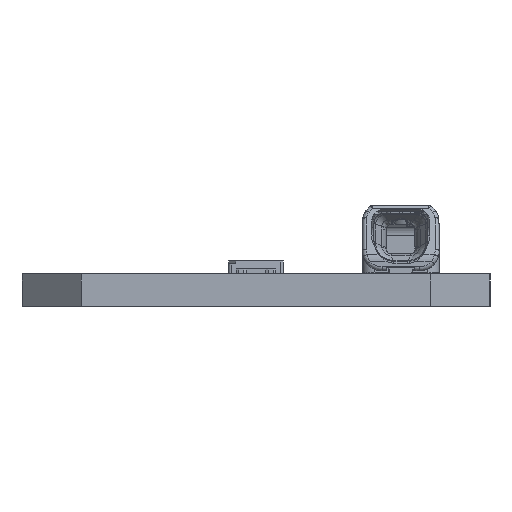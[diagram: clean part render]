
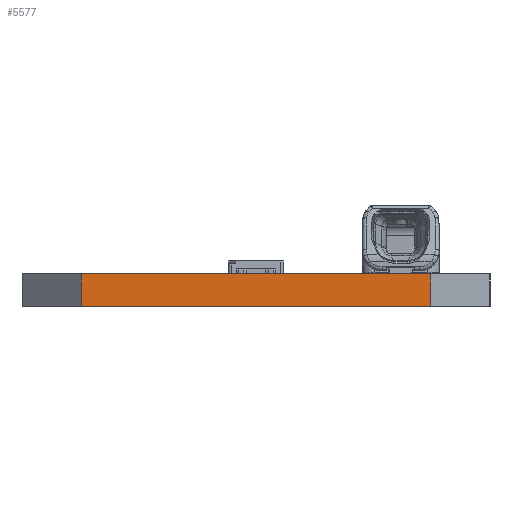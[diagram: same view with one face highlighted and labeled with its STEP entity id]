
A CAD part, left-side view. The second image highlights one B-rep face of the part: STEP entity #5577.
In plain terms, the highlighted planar face has unit normal (-1, 0, 0).
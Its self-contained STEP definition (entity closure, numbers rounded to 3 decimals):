
#877=DIRECTION('',(0.,1.,0.));
#878=VECTOR('',#877,17.6);
#879=CARTESIAN_POINT('',(-34.5,-8.8,0.));
#880=LINE('',#879,#878);
#959=DIRECTION('',(0.,0.,1.));
#960=VECTOR('',#959,1.65);
#961=CARTESIAN_POINT('',(-34.5,8.8,0.));
#962=LINE('',#961,#960);
#963=DIRECTION('',(0.,0.,1.));
#964=VECTOR('',#963,1.65);
#965=CARTESIAN_POINT('',(-34.5,-8.8,0.));
#966=LINE('',#965,#964);
#967=DIRECTION('',(0.,1.,0.));
#968=VECTOR('',#967,17.6);
#969=CARTESIAN_POINT('',(-34.5,-8.8,1.65));
#970=LINE('',#969,#968);
#3940=CARTESIAN_POINT('',(-34.5,-8.8,0.));
#3941=CARTESIAN_POINT('',(-34.5,8.8,0.));
#3942=VERTEX_POINT('',#3940);
#3943=VERTEX_POINT('',#3941);
#3964=CARTESIAN_POINT('',(-34.5,-8.8,1.65));
#3965=VERTEX_POINT('',#3964);
#3986=CARTESIAN_POINT('',(-34.5,8.8,1.65));
#3987=VERTEX_POINT('',#3986);
#5565=CARTESIAN_POINT('',(-34.5,8.8,1.65));
#5566=DIRECTION('',(-1.,0.,0.));
#5567=DIRECTION('',(0.,0.,1.));
#5568=AXIS2_PLACEMENT_3D('',#5565,#5566,#5567);
#5569=PLANE('',#5568);
#5571=ORIENTED_EDGE('',*,*,#5570,.F.);
#5572=ORIENTED_EDGE('',*,*,#5451,.T.);
#5573=ORIENTED_EDGE('',*,*,#5557,.T.);
#5574=ORIENTED_EDGE('',*,*,#5120,.F.);
#5575=EDGE_LOOP('',(#5571,#5572,#5573,#5574));
#5576=FACE_OUTER_BOUND('',#5575,.F.);
#5577=ADVANCED_FACE('',(#5576),#5569,.T.);
#5120=EDGE_CURVE('',#3965,#3987,#970,.T.);
#5451=EDGE_CURVE('',#3942,#3943,#880,.T.);
#5557=EDGE_CURVE('',#3943,#3987,#962,.T.);
#5570=EDGE_CURVE('',#3942,#3965,#966,.T.);
